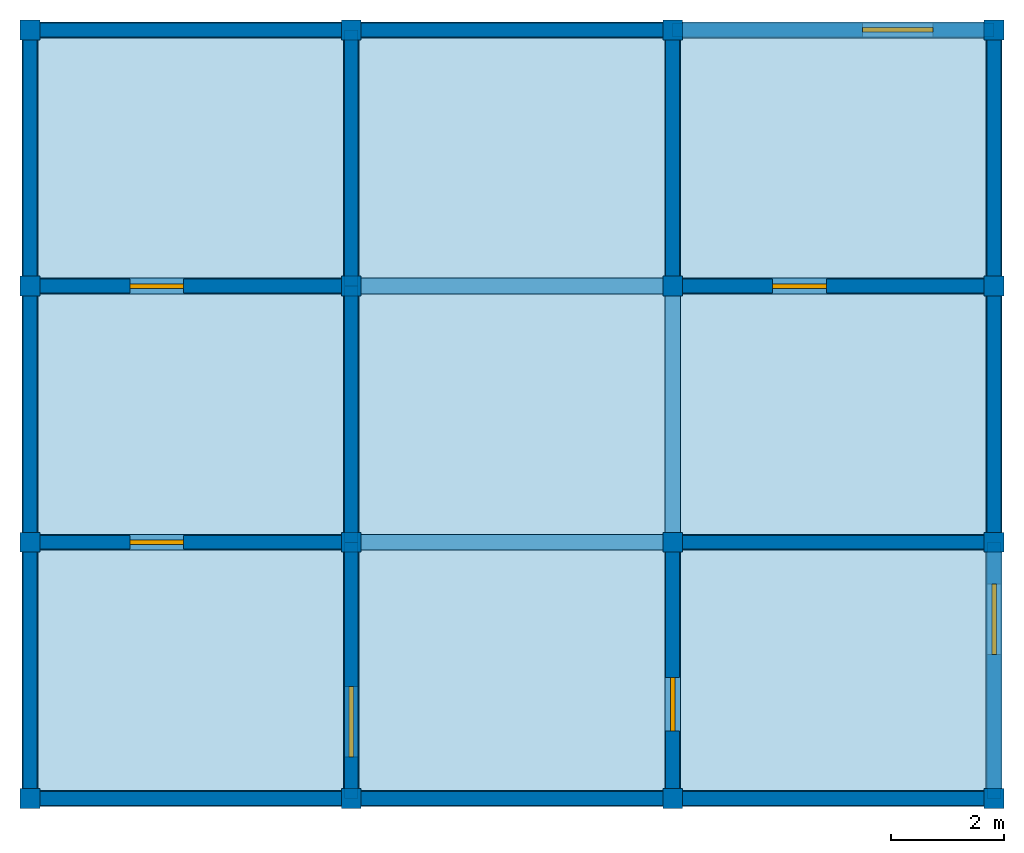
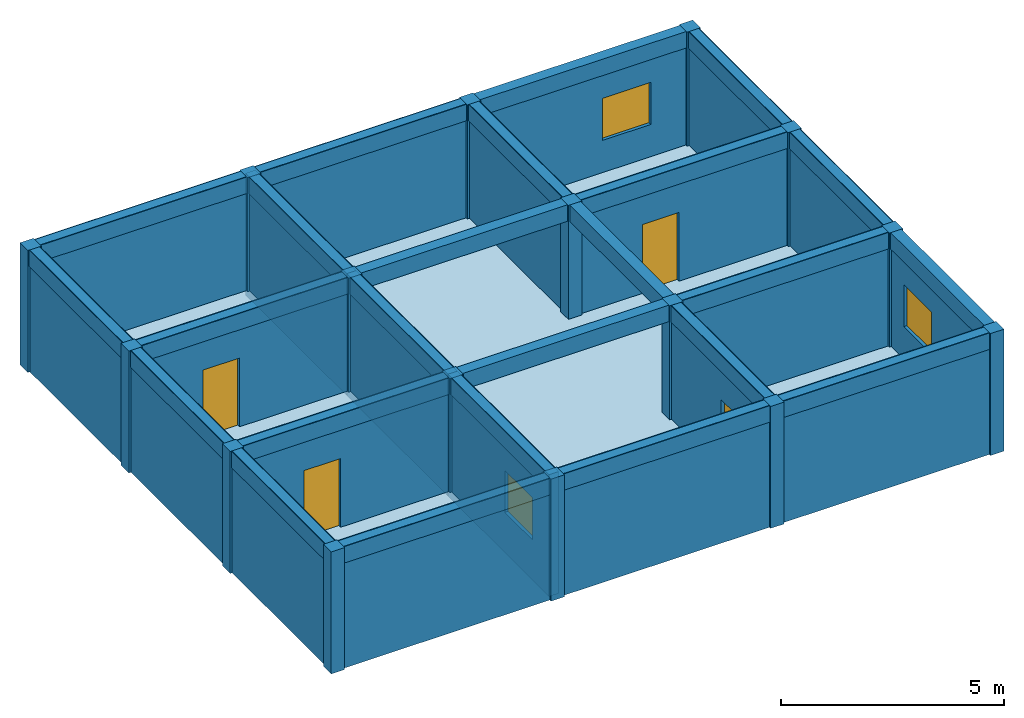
# One storey: 24 beams, 24 walls, 16 columns, 4 doors, 3 windows, 1 slab, 7 openings.
"""IFC4X3 building model written with IfcOpenShell, lengths in metres."""

from ifc_helpers import new_model, si_unit, frame, origin_with_axes, origin_2d, place, context, project, spatial, rectangle, extrude, material, element, fill, save


model = new_model("IFC4X3")

# Units and contexts
model_context = context("Model", 3, precision=1e-05, world=origin_with_axes())
ifc_project = project(units=[si_unit("LENGTHUNIT", "METRE"), si_unit("AREAUNIT", "SQUARE_METRE"), si_unit("VOLUMEUNIT", "CUBIC_METRE")], contexts=[model_context])

# Site, building, storey
site = spatial("IfcSite", under=ifc_project, Name="Valdivia Parcel", CompositionType="ELEMENT")
building = spatial("IfcBuilding", under=site, Name="Strata Block", CompositionType="ELEMENT")
storey = spatial("IfcBuildingStorey", under=building, Name="Level 12", CompositionType="ELEMENT", Elevation=36.69)

# Columns
ifc_material_1 = material(Name="Concrete")
column_1_placement = place(None, frame((-8.525, -6.795, 36.69), z_axis=(0.0, 0.0, 1.0), x_axis=(1.0, 0.0, 0.0)))
element("IfcColumn", 1, at=column_1_placement, inside=storey, material=ifc_material_1, Name="Column 12.1", ObjectType="Structural Column", PredefinedType="NOTDEFINED", context=model_context, shape_type="SweptSolid", body=[
    extrude(rectangle(XDim=0.35, YDim=0.35, at=origin_2d()), origin_with_axes(), (0.0, 0.0, 1.0), 3.335),
])
column_2_placement = place(None, frame((-8.525, -2.265, 36.69), z_axis=(0.0, 0.0, 1.0), x_axis=(1.0, 0.0, 0.0)))
element("IfcColumn", 2, at=column_2_placement, inside=storey, material=ifc_material_1, Name="Column 12.2", ObjectType="Corner Column", PredefinedType="PILASTER", context=model_context, shape_type="SweptSolid", body=[
    extrude(rectangle(XDim=0.35, YDim=0.35, at=origin_2d()), origin_with_axes(), (0.0, 0.0, 1.0), 3.335),
])
column_3_placement = place(None, frame((-8.525, 2.265, 36.69), z_axis=(0.0, 0.0, 1.0), x_axis=(1.0, 0.0, 0.0)))
element("IfcColumn", 3, at=column_3_placement, inside=storey, material=ifc_material_1, Name="Column 12.3", ObjectType="Corner Column", PredefinedType="USERDEFINED", context=model_context, shape_type="SweptSolid", body=[
    extrude(rectangle(XDim=0.35, YDim=0.35, at=origin_2d()), origin_with_axes(), (0.0, 0.0, 1.0), 3.335),
])
column_4_placement = place(None, frame((-8.525, 6.795, 36.69), z_axis=(0.0, 0.0, 1.0), x_axis=(1.0, 0.0, 0.0)))
element("IfcColumn", 4, at=column_4_placement, inside=storey, material=ifc_material_1, Name="Column 12.4", ObjectType="Corner Column", PredefinedType="PILASTER", context=model_context, shape_type="SweptSolid", body=[
    extrude(rectangle(XDim=0.35, YDim=0.35, at=origin_2d()), origin_with_axes(), (0.0, 0.0, 1.0), 3.335),
])
column_5_placement = place(None, frame((-2.842, -6.795, 36.69), z_axis=(0.0, 0.0, 1.0), x_axis=(1.0, 0.0, 0.0)))
element("IfcColumn", 5, at=column_5_placement, inside=storey, material=ifc_material_1, Name="Column 12.5", ObjectType="Structural Column", PredefinedType="NOTDEFINED", context=model_context, shape_type="SweptSolid", body=[
    extrude(rectangle(XDim=0.35, YDim=0.35, at=origin_2d()), origin_with_axes(), (0.0, 0.0, 1.0), 3.335),
])
column_6_placement = place(None, frame((-2.842, -2.265, 36.69), z_axis=(0.0, 0.0, 1.0), x_axis=(1.0, 0.0, 0.0)))
element("IfcColumn", 6, at=column_6_placement, inside=storey, material=ifc_material_1, Name="Column 12.6", ObjectType="Core Column", PredefinedType="USERDEFINED", context=model_context, shape_type="SweptSolid", body=[
    extrude(rectangle(XDim=0.35, YDim=0.35, at=origin_2d()), origin_with_axes(), (0.0, 0.0, 1.0), 3.335),
])
column_7_placement = place(None, frame((-2.842, 2.265, 36.69), z_axis=(0.0, 0.0, 1.0), x_axis=(1.0, 0.0, 0.0)))
element("IfcColumn", 7, at=column_7_placement, inside=storey, material=ifc_material_1, Name="Column 12.7", ObjectType="Core Column", PredefinedType="PILASTER", context=model_context, shape_type="SweptSolid", body=[
    extrude(rectangle(XDim=0.35, YDim=0.35, at=origin_2d()), origin_with_axes(), (0.0, 0.0, 1.0), 3.335),
])
column_8_placement = place(None, frame((-2.842, 6.795, 36.69), z_axis=(0.0, 0.0, 1.0), x_axis=(1.0, 0.0, 0.0)))
element("IfcColumn", 8, at=column_8_placement, inside=storey, material=ifc_material_1, Name="Column 12.8", ObjectType="Corner Column", PredefinedType="PILASTER", context=model_context, shape_type="SweptSolid", body=[
    extrude(rectangle(XDim=0.35, YDim=0.35, at=origin_2d()), origin_with_axes(), (0.0, 0.0, 1.0), 3.335),
])
column_9_placement = place(None, frame((2.841, -6.795, 36.69), z_axis=(0.0, 0.0, 1.0), x_axis=(1.0, 0.0, 0.0)))
element("IfcColumn", 9, at=column_9_placement, inside=storey, material=ifc_material_1, Name="Column 12.9", ObjectType="Structural Column", PredefinedType="USERDEFINED", context=model_context, shape_type="SweptSolid", body=[
    extrude(rectangle(XDim=0.35, YDim=0.35, at=origin_2d()), origin_with_axes(), (0.0, 0.0, 1.0), 3.335),
])
column_10_placement = place(None, frame((2.841, -2.265, 36.69), z_axis=(0.0, 0.0, 1.0), x_axis=(1.0, 0.0, 0.0)))
element("IfcColumn", 10, at=column_10_placement, inside=storey, material=ifc_material_1, Name="Column 12.10", ObjectType="Structural Column", PredefinedType="NOTDEFINED", context=model_context, shape_type="SweptSolid", body=[
    extrude(rectangle(XDim=0.35, YDim=0.35, at=origin_2d()), origin_with_axes(), (0.0, 0.0, 1.0), 3.335),
])
column_11_placement = place(None, frame((2.841, 2.265, 36.69), z_axis=(0.0, 0.0, 1.0), x_axis=(1.0, 0.0, 0.0)))
element("IfcColumn", 11, at=column_11_placement, inside=storey, material=ifc_material_1, Name="Column 12.11", ObjectType="Structural Column", PredefinedType="USERDEFINED", context=model_context, shape_type="SweptSolid", body=[
    extrude(rectangle(XDim=0.35, YDim=0.35, at=origin_2d()), origin_with_axes(), (0.0, 0.0, 1.0), 3.335),
])
for number, where, z_axis, x_axis, name in (
    (12, (2.841, 6.795, 36.69), (0.0, 0.0, 1.0), (1.0, 0.0, 0.0), "Column 12.12"),
    (13, (8.524, -6.795, 36.69), (0.0, 0.0, 1.0), (1.0, 0.0, 0.0), "Column 12.13"),
    (14, (8.524, -2.265, 36.69), (0.0, 0.0, 1.0), (1.0, 0.0, 0.0), "Column 12.14"),
):
    element("IfcColumn", number, at=place(None, frame(where, z_axis=z_axis, x_axis=x_axis)), inside=storey, material=ifc_material_1, Name=name, ObjectType="Structural Column", PredefinedType="COLUMN", context=model_context, shape_type="SweptSolid", body=[
        extrude(rectangle(XDim=0.35, YDim=0.35, at=origin_2d()), origin_with_axes(), (0.0, 0.0, 1.0), 3.335),
    ])
column_12_placement = place(None, frame((8.524, 2.265, 36.69), z_axis=(0.0, 0.0, 1.0), x_axis=(1.0, 0.0, 0.0)))
element("IfcColumn", 15, at=column_12_placement, inside=storey, material=ifc_material_1, Name="Column 12.15", ObjectType="Facade Column", PredefinedType="NOTDEFINED", context=model_context, shape_type="SweptSolid", body=[
    extrude(rectangle(XDim=0.35, YDim=0.35, at=origin_2d()), origin_with_axes(), (0.0, 0.0, 1.0), 3.335),
])
column_13_placement = place(None, frame((8.524, 6.795, 36.69), z_axis=(0.0, 0.0, 1.0), x_axis=(1.0, 0.0, 0.0)))
element("IfcColumn", 16, at=column_13_placement, inside=storey, material=ifc_material_1, Name="Column 12.16", ObjectType="Corner Column", PredefinedType="PILASTER", context=model_context, shape_type="SweptSolid", body=[
    extrude(rectangle(XDim=0.35, YDim=0.35, at=origin_2d()), origin_with_axes(), (0.0, 0.0, 1.0), 3.335),
])

# Beams
ifc_material_2 = material(Name="Timber")
beam_1_placement = place(None, frame((-5.684, -6.795, 39.575), z_axis=(0.0, 0.0, 1.0), x_axis=(1.0, 0.0, 0.0)))
element("IfcBeam", 17, at=beam_1_placement, inside=storey, material=ifc_material_2, Name="Beam 12.1", ObjectType="Primary Beam", PredefinedType="T_BEAM", context=model_context, shape_type="SweptSolid", body=[
    extrude(rectangle(XDim=5.683, YDim=0.28, at=origin_2d()), origin_with_axes(), (0.0, 0.0, 1.0), 0.45),
])
beam_2_placement = place(None, frame((0.0, -6.795, 39.575), z_axis=(0.0, 0.0, 1.0), x_axis=(1.0, 0.0, 0.0)))
element("IfcBeam", 18, at=beam_2_placement, inside=storey, material=ifc_material_2, Name="Beam 12.2", ObjectType="Secondary Beam", PredefinedType="T_BEAM", context=model_context, shape_type="SweptSolid", body=[
    extrude(rectangle(XDim=5.683, YDim=0.28, at=origin_2d()), origin_with_axes(), (0.0, 0.0, 1.0), 0.45),
])
beam_3_placement = place(None, frame((5.682, -6.795, 39.575), z_axis=(0.0, 0.0, 1.0), x_axis=(1.0, 0.0, 0.0)))
element("IfcBeam", 19, at=beam_3_placement, inside=storey, material=ifc_material_2, Name="Beam 12.3", ObjectType="Primary Beam", PredefinedType="SPANDREL", context=model_context, shape_type="SweptSolid", body=[
    extrude(rectangle(XDim=5.683, YDim=0.28, at=origin_2d()), origin_with_axes(), (0.0, 0.0, 1.0), 0.45),
])
beam_4_placement = place(None, frame((-5.684, -2.265, 39.575), z_axis=(0.0, 0.0, 1.0), x_axis=(1.0, 0.0, 0.0)))
element("IfcBeam", 20, at=beam_4_placement, inside=storey, material=ifc_material_2, Name="Beam 12.4", ObjectType="Secondary Beam", PredefinedType="HOLLOWCORE", context=model_context, shape_type="SweptSolid", body=[
    extrude(rectangle(XDim=5.683, YDim=0.28, at=origin_2d()), origin_with_axes(), (0.0, 0.0, 1.0), 0.45),
])
beam_5_placement = place(None, frame((0.0, -2.265, 39.575), z_axis=(0.0, 0.0, 1.0), x_axis=(1.0, 0.0, 0.0)))
element("IfcBeam", 21, at=beam_5_placement, inside=storey, material=ifc_material_2, Name="Beam 12.5", ObjectType="Ridge Beam", PredefinedType="LINTEL", context=model_context, shape_type="SweptSolid", body=[
    extrude(rectangle(XDim=5.683, YDim=0.28, at=origin_2d()), origin_with_axes(), (0.0, 0.0, 1.0), 0.45),
])
beam_6_placement = place(None, frame((5.682, -2.265, 39.575), z_axis=(0.0, 0.0, 1.0), x_axis=(1.0, 0.0, 0.0)))
element("IfcBeam", 22, at=beam_6_placement, inside=storey, material=ifc_material_2, Name="Beam 12.6", ObjectType="Ridge Beam", PredefinedType="T_BEAM", context=model_context, shape_type="SweptSolid", body=[
    extrude(rectangle(XDim=5.683, YDim=0.28, at=origin_2d()), origin_with_axes(), (0.0, 0.0, 1.0), 0.45),
])
beam_7_placement = place(None, frame((-5.684, 2.265, 39.575), z_axis=(0.0, 0.0, 1.0), x_axis=(1.0, 0.0, 0.0)))
element("IfcBeam", 23, at=beam_7_placement, inside=storey, material=ifc_material_2, Name="Beam 12.7", ObjectType="Secondary Beam", PredefinedType="LINTEL", context=model_context, shape_type="SweptSolid", body=[
    extrude(rectangle(XDim=5.683, YDim=0.28, at=origin_2d()), origin_with_axes(), (0.0, 0.0, 1.0), 0.45),
])
beam_8_placement = place(None, frame((0.0, 2.265, 39.575), z_axis=(0.0, 0.0, 1.0), x_axis=(1.0, 0.0, 0.0)))
element("IfcBeam", 24, at=beam_8_placement, inside=storey, material=ifc_material_2, Name="Beam 12.8", ObjectType="Primary Beam", PredefinedType="BEAM", context=model_context, shape_type="SweptSolid", body=[
    extrude(rectangle(XDim=5.683, YDim=0.28, at=origin_2d()), origin_with_axes(), (0.0, 0.0, 1.0), 0.45),
])
beam_9_placement = place(None, frame((5.682, 2.265, 39.575), z_axis=(0.0, 0.0, 1.0), x_axis=(1.0, 0.0, 0.0)))
element("IfcBeam", 25, at=beam_9_placement, inside=storey, material=ifc_material_2, Name="Beam 12.9", ObjectType="Primary Beam", PredefinedType="USERDEFINED", context=model_context, shape_type="SweptSolid", body=[
    extrude(rectangle(XDim=5.683, YDim=0.28, at=origin_2d()), origin_with_axes(), (0.0, 0.0, 1.0), 0.45),
])
beam_10_placement = place(None, frame((-5.684, 6.795, 39.575), z_axis=(0.0, 0.0, 1.0), x_axis=(1.0, 0.0, 0.0)))
element("IfcBeam", 26, at=beam_10_placement, inside=storey, material=ifc_material_2, Name="Beam 12.10", ObjectType="Transfer Beam", PredefinedType="HOLLOWCORE", context=model_context, shape_type="SweptSolid", body=[
    extrude(rectangle(XDim=5.683, YDim=0.28, at=origin_2d()), origin_with_axes(), (0.0, 0.0, 1.0), 0.45),
])
beam_11_placement = place(None, frame((0.0, 6.795, 39.575), z_axis=(0.0, 0.0, 1.0), x_axis=(1.0, 0.0, 0.0)))
element("IfcBeam", 27, at=beam_11_placement, inside=storey, material=ifc_material_2, Name="Beam 12.11", ObjectType="Transfer Beam", PredefinedType="LINTEL", context=model_context, shape_type="SweptSolid", body=[
    extrude(rectangle(XDim=5.683, YDim=0.28, at=origin_2d()), origin_with_axes(), (0.0, 0.0, 1.0), 0.45),
])
beam_12_placement = place(None, frame((5.682, 6.795, 39.575), z_axis=(0.0, 0.0, 1.0), x_axis=(1.0, 0.0, 0.0)))
element("IfcBeam", 28, at=beam_12_placement, inside=storey, material=ifc_material_2, Name="Beam 12.12", ObjectType="Secondary Beam", PredefinedType="JOIST", context=model_context, shape_type="SweptSolid", body=[
    extrude(rectangle(XDim=5.683, YDim=0.28, at=origin_2d()), origin_with_axes(), (0.0, 0.0, 1.0), 0.45),
])
beam_13_placement = place(None, frame((-8.525, -4.53, 39.575), z_axis=(0.0, 0.0, 1.0), x_axis=(0.0, 1.0, 0.0)))
element("IfcBeam", 29, at=beam_13_placement, inside=storey, material=ifc_material_2, Name="Beam 12.13", ObjectType="Transfer Beam", PredefinedType="T_BEAM", context=model_context, shape_type="SweptSolid", body=[
    extrude(rectangle(XDim=4.53, YDim=0.28, at=origin_2d()), origin_with_axes(), (0.0, 0.0, 1.0), 0.45),
])
beam_14_placement = place(None, frame((-8.525, 0.0, 39.575), z_axis=(0.0, 0.0, 1.0), x_axis=(0.0, 1.0, 0.0)))
element("IfcBeam", 30, at=beam_14_placement, inside=storey, material=ifc_material_2, Name="Beam 12.14", ObjectType="Ridge Beam", PredefinedType="T_BEAM", context=model_context, shape_type="SweptSolid", body=[
    extrude(rectangle(XDim=4.53, YDim=0.28, at=origin_2d()), origin_with_axes(), (0.0, 0.0, 1.0), 0.45),
])
beam_15_placement = place(None, frame((-8.525, 4.53, 39.575), z_axis=(0.0, 0.0, 1.0), x_axis=(0.0, 1.0, 0.0)))
element("IfcBeam", 31, at=beam_15_placement, inside=storey, material=ifc_material_2, Name="Beam 12.15", ObjectType="Ridge Beam", PredefinedType="JOIST", context=model_context, shape_type="SweptSolid", body=[
    extrude(rectangle(XDim=4.53, YDim=0.28, at=origin_2d()), origin_with_axes(), (0.0, 0.0, 1.0), 0.45),
])
beam_16_placement = place(None, frame((-2.842, -4.53, 39.575), z_axis=(0.0, 0.0, 1.0), x_axis=(0.0, 1.0, 0.0)))
element("IfcBeam", 32, at=beam_16_placement, inside=storey, material=ifc_material_2, Name="Beam 12.16", ObjectType="Transfer Beam", PredefinedType="T_BEAM", context=model_context, shape_type="SweptSolid", body=[
    extrude(rectangle(XDim=4.53, YDim=0.28, at=origin_2d()), origin_with_axes(), (0.0, 0.0, 1.0), 0.45),
])
beam_17_placement = place(None, frame((-2.842, 0.0, 39.575), z_axis=(0.0, 0.0, 1.0), x_axis=(0.0, 1.0, 0.0)))
element("IfcBeam", 33, at=beam_17_placement, inside=storey, material=ifc_material_2, Name="Beam 12.17", ObjectType="Transfer Beam", PredefinedType="NOTDEFINED", context=model_context, shape_type="SweptSolid", body=[
    extrude(rectangle(XDim=4.53, YDim=0.28, at=origin_2d()), origin_with_axes(), (0.0, 0.0, 1.0), 0.45),
])
beam_18_placement = place(None, frame((-2.842, 4.53, 39.575), z_axis=(0.0, 0.0, 1.0), x_axis=(0.0, 1.0, 0.0)))
element("IfcBeam", 34, at=beam_18_placement, inside=storey, material=ifc_material_2, Name="Beam 12.18", ObjectType="Primary Beam", PredefinedType="NOTDEFINED", context=model_context, shape_type="SweptSolid", body=[
    extrude(rectangle(XDim=4.53, YDim=0.28, at=origin_2d()), origin_with_axes(), (0.0, 0.0, 1.0), 0.45),
])
beam_19_placement = place(None, frame((2.841, -4.53, 39.575), z_axis=(0.0, 0.0, 1.0), x_axis=(0.0, 1.0, 0.0)))
element("IfcBeam", 35, at=beam_19_placement, inside=storey, material=ifc_material_2, Name="Beam 12.19", ObjectType="Rafter Beam", PredefinedType="HOLLOWCORE", context=model_context, shape_type="SweptSolid", body=[
    extrude(rectangle(XDim=4.53, YDim=0.28, at=origin_2d()), origin_with_axes(), (0.0, 0.0, 1.0), 0.45),
])
beam_20_placement = place(None, frame((2.841, 0.0, 39.575), z_axis=(0.0, 0.0, 1.0), x_axis=(0.0, 1.0, 0.0)))
element("IfcBeam", 36, at=beam_20_placement, inside=storey, material=ifc_material_2, Name="Beam 12.20", ObjectType="Rafter Beam", PredefinedType="NOTDEFINED", context=model_context, shape_type="SweptSolid", body=[
    extrude(rectangle(XDim=4.53, YDim=0.28, at=origin_2d()), origin_with_axes(), (0.0, 0.0, 1.0), 0.45),
])
beam_21_placement = place(None, frame((2.841, 4.53, 39.575), z_axis=(0.0, 0.0, 1.0), x_axis=(0.0, 1.0, 0.0)))
element("IfcBeam", 37, at=beam_21_placement, inside=storey, material=ifc_material_2, Name="Beam 12.21", ObjectType="Primary Beam", PredefinedType="T_BEAM", context=model_context, shape_type="SweptSolid", body=[
    extrude(rectangle(XDim=4.53, YDim=0.28, at=origin_2d()), origin_with_axes(), (0.0, 0.0, 1.0), 0.45),
])
beam_22_placement = place(None, frame((8.524, -4.53, 39.575), z_axis=(0.0, 0.0, 1.0), x_axis=(0.0, 1.0, 0.0)))
element("IfcBeam", 38, at=beam_22_placement, inside=storey, material=ifc_material_2, Name="Beam 12.22", ObjectType="Secondary Beam", PredefinedType="HOLLOWCORE", context=model_context, shape_type="SweptSolid", body=[
    extrude(rectangle(XDim=4.53, YDim=0.28, at=origin_2d()), origin_with_axes(), (0.0, 0.0, 1.0), 0.45),
])
beam_23_placement = place(None, frame((8.524, 0.0, 39.575), z_axis=(0.0, 0.0, 1.0), x_axis=(0.0, 1.0, 0.0)))
element("IfcBeam", 39, at=beam_23_placement, inside=storey, material=ifc_material_2, Name="Beam 12.23", ObjectType="Transfer Beam", PredefinedType="HOLLOWCORE", context=model_context, shape_type="SweptSolid", body=[
    extrude(rectangle(XDim=4.53, YDim=0.28, at=origin_2d()), origin_with_axes(), (0.0, 0.0, 1.0), 0.45),
])
beam_24_placement = place(None, frame((8.524, 4.53, 39.575), z_axis=(0.0, 0.0, 1.0), x_axis=(0.0, 1.0, 0.0)))
element("IfcBeam", 40, at=beam_24_placement, inside=storey, material=ifc_material_2, Name="Beam 12.24", ObjectType="Primary Beam", PredefinedType="LINTEL", context=model_context, shape_type="SweptSolid", body=[
    extrude(rectangle(XDim=4.53, YDim=0.28, at=origin_2d()), origin_with_axes(), (0.0, 0.0, 1.0), 0.45),
])

# Slab
slab_placement = place(None, frame((0.0, 0.0, 36.69), z_axis=(0.0, 0.0, 1.0), x_axis=(1.0, 0.0, 0.0)))
element("IfcSlab", 41, at=slab_placement, inside=storey, material=ifc_material_2, Name="Slab 12", ObjectType="Roof Slab", PredefinedType="ROOF", context=model_context, shape_type="SweptSolid", body=[
    extrude(rectangle(XDim=17.05, YDim=13.59, at=origin_2d()), origin_with_axes(), (0.0, 0.0, 1.0), 0.22),
])

# Wall, opening, door
wall_1_placement = place(None, frame((-5.684, -2.265, 36.69), z_axis=(0.0, 0.0, 1.0), x_axis=(1.0, 0.0, 0.0)))
wall_1 = element("IfcWall", 42, at=wall_1_placement, inside=storey, material=ifc_material_1, Name="Wall 12.1", ObjectType="Corridor Partition", PredefinedType="SOLIDWALL", context=model_context, shape_type="SweptSolid", body=[
    extrude(rectangle(XDim=5.683, YDim=0.244863, at=origin_2d()), origin_with_axes(), (0.0, 0.0, 1.0), 3.335),
])
opening_1_placement = place(None, frame((-6.284, -2.265, 36.69), z_axis=(0.0, 0.0, 1.0), x_axis=(1.0, 0.0, 0.0)))
opening_1 = element("IfcOpeningElement", 43, at=opening_1_placement, cuts=wall_1, Name="Door opening 12.1", ObjectType="Door Opening", PredefinedType="OPENING", context=model_context, shape_type="SweptSolid", body=[
    extrude(rectangle(XDim=0.95, YDim=0.324863, at=origin_2d()), origin_with_axes(), (0.0, 0.0, 1.0), 2.1),
])
door_1_placement = place(None, frame((-6.284, -2.265, 36.69), z_axis=(0.0, 0.0, 1.0), x_axis=(1.0, 0.0, 0.0)))
door_1 = element("IfcDoor", 44, at=door_1_placement, inside=storey, Name="Door 12.1", ObjectType="Entry Door", OverallHeight=2.1, OverallWidth=0.95, context=model_context, shape_type="SweptSolid", body=[
    extrude(rectangle(XDim=0.95, YDim=0.08, at=origin_2d()), origin_with_axes(), (0.0, 0.0, 1.0), 2.1),
])
fill(opening_1, door_1)

# Wall, opening, window
wall_2_placement = place(None, frame((-2.8425, -4.53, 36.69), z_axis=(0.0, 0.0, 1.0), x_axis=(0.0, 1.0, 0.0)))
wall_2 = element("IfcWall", 45, at=wall_2_placement, inside=storey, material=ifc_material_1, Name="Wall 12.2", ObjectType="Exterior Wall", PredefinedType="PARAPET", context=model_context, shape_type="SweptSolid", body=[
    extrude(rectangle(XDim=4.53, YDim=0.244863, at=origin_2d()), origin_with_axes(), (0.0, 0.0, 1.0), 3.335),
])
opening_2_placement = place(None, frame((-2.843, -5.436, 37.79), z_axis=(0.0, 0.0, 1.0), x_axis=(0.0, 1.0, 0.0)))
opening_2 = element("IfcOpeningElement", 46, at=opening_2_placement, cuts=wall_2, Name="Window opening 12.2", ObjectType="Window Opening", PredefinedType="OPENING", context=model_context, shape_type="SweptSolid", body=[
    extrude(rectangle(XDim=1.25, YDim=0.324863, at=origin_2d()), origin_with_axes(), (0.0, 0.0, 1.0), 1.15),
])
window_1_placement = place(None, frame((-2.843, -5.436, 37.79), z_axis=(0.0, 0.0, 1.0), x_axis=(0.0, 1.0, 0.0)))
window_1 = element("IfcWindow", 47, at=window_1_placement, inside=storey, Name="Window 12.2", ObjectType="Sliding Window", OverallHeight=1.15, OverallWidth=1.25, context=model_context, shape_type="SweptSolid", body=[
    extrude(rectangle(XDim=1.25, YDim=0.08, at=origin_2d()), origin_with_axes(), (0.0, 0.0, 1.0), 1.15),
])
fill(opening_2, window_1)

# Walls
wall_3_placement = place(None, frame((-5.684, -6.795, 36.69), z_axis=(0.0, 0.0, 1.0), x_axis=(1.0, 0.0, 0.0)))
element("IfcWall", 48, at=wall_3_placement, inside=storey, material=ifc_material_1, Name="Wall 12.3", ObjectType="Exterior Wall", PredefinedType="ELEMENTEDWALL", context=model_context, shape_type="SweptSolid", body=[
    extrude(rectangle(XDim=5.683, YDim=0.244863, at=origin_2d()), origin_with_axes(), (0.0, 0.0, 1.0), 3.335),
])
ifc_material_3 = material(Name="CLT")
wall_4_placement = place(None, frame((-8.5255, -4.53, 36.69), z_axis=(0.0, 0.0, 1.0), x_axis=(0.0, 1.0, 0.0)))
element("IfcWall", 49, at=wall_4_placement, inside=storey, material=ifc_material_3, Name="Wall 12.4", ObjectType="Exterior Wall", PredefinedType="MOVABLE", context=model_context, shape_type="SweptSolid", body=[
    extrude(rectangle(XDim=4.53, YDim=0.244863, at=origin_2d()), origin_with_axes(), (0.0, 0.0, 1.0), 3.335),
])

# Wall, opening, door
ifc_material_4 = material(Name="Brick")
wall_5_placement = place(None, frame((2.8405, -4.53, 36.69), z_axis=(0.0, 0.0, 1.0), x_axis=(0.0, 1.0, 0.0)))
wall_5 = element("IfcWall", 50, at=wall_5_placement, inside=storey, material=ifc_material_4, Name="Wall 12.5", ObjectType="Corridor Partition", PredefinedType="SHEAR", context=model_context, shape_type="SweptSolid", body=[
    extrude(rectangle(XDim=4.53, YDim=0.244863, at=origin_2d()), origin_with_axes(), (0.0, 0.0, 1.0), 3.335),
])
opening_3_placement = place(None, frame((2.841, -5.13, 36.69), z_axis=(0.0, 0.0, 1.0), x_axis=(0.0, 1.0, 0.0)))
opening_3 = element("IfcOpeningElement", 51, at=opening_3_placement, cuts=wall_5, Name="Door opening 12.3", ObjectType="Door Opening", PredefinedType="OPENING", context=model_context, shape_type="SweptSolid", body=[
    extrude(rectangle(XDim=0.95, YDim=0.324863, at=origin_2d()), origin_with_axes(), (0.0, 0.0, 1.0), 2.1),
])
door_2_placement = place(None, frame((2.841, -5.13, 36.69), z_axis=(0.0, 0.0, 1.0), x_axis=(0.0, 1.0, 0.0)))
door_2 = element("IfcDoor", 52, at=door_2_placement, inside=storey, Name="Door 12.3", ObjectType="Entry Door", OverallHeight=2.1, OverallWidth=0.95, context=model_context, shape_type="SweptSolid", body=[
    extrude(rectangle(XDim=0.95, YDim=0.08, at=origin_2d()), origin_with_axes(), (0.0, 0.0, 1.0), 2.1),
])
fill(opening_3, door_2)

# Walls
ifc_material_5 = material(Name="Gypsum")
wall_6_placement = place(None, frame((-0.001, -6.795, 36.69), z_axis=(0.0, 0.0, 1.0), x_axis=(1.0, 0.0, 0.0)))
element("IfcWall", 53, at=wall_6_placement, inside=storey, material=ifc_material_5, Name="Wall 12.6", ObjectType="Exterior Wall", PredefinedType="ELEMENTEDWALL", context=model_context, shape_type="SweptSolid", body=[
    extrude(rectangle(XDim=5.683, YDim=0.244863, at=origin_2d()), origin_with_axes(), (0.0, 0.0, 1.0), 3.335),
])
wall_7_placement = place(None, frame((-2.8425, -4.53, 36.69), z_axis=(0.0, 0.0, 1.0), x_axis=(0.0, 1.0, 0.0)))
element("IfcWall", 54, at=wall_7_placement, inside=storey, material=ifc_material_1, Name="Wall 12.7", ObjectType="Exterior Wall", PredefinedType="USERDEFINED", context=model_context, shape_type="SweptSolid", body=[
    extrude(rectangle(XDim=4.53, YDim=0.244863, at=origin_2d()), origin_with_axes(), (0.0, 0.0, 1.0), 3.335),
])
wall_8_placement = place(None, frame((5.682, -2.265, 36.69), z_axis=(0.0, 0.0, 1.0), x_axis=(1.0, 0.0, 0.0)))
element("IfcWall", 55, at=wall_8_placement, inside=storey, material=ifc_material_4, Name="Wall 12.8", ObjectType="Corridor Partition", PredefinedType="SHEAR", context=model_context, shape_type="SweptSolid", body=[
    extrude(rectangle(XDim=5.683, YDim=0.244863, at=origin_2d()), origin_with_axes(), (0.0, 0.0, 1.0), 3.335),
])

# Wall, opening, window
wall_9_placement = place(None, frame((8.5235, -4.53, 36.69), z_axis=(0.0, 0.0, 1.0), x_axis=(0.0, 1.0, 0.0)))
wall_9 = element("IfcWall", 56, at=wall_9_placement, inside=storey, material=ifc_material_1, Name="Wall 12.9", ObjectType="Exterior Wall", PredefinedType="NOTDEFINED", context=model_context, shape_type="SweptSolid", body=[
    extrude(rectangle(XDim=4.53, YDim=0.244863, at=origin_2d()), origin_with_axes(), (0.0, 0.0, 1.0), 3.335),
])
opening_4_placement = place(None, frame((8.524, -3.624, 37.79), z_axis=(0.0, 0.0, 1.0), x_axis=(0.0, 1.0, 0.0)))
opening_4 = element("IfcOpeningElement", 57, at=opening_4_placement, cuts=wall_9, Name="Window opening 12.4", ObjectType="Window Opening", PredefinedType="OPENING", context=model_context, shape_type="SweptSolid", body=[
    extrude(rectangle(XDim=1.25, YDim=0.324863, at=origin_2d()), origin_with_axes(), (0.0, 0.0, 1.0), 1.15),
])
window_2_placement = place(None, frame((8.524, -3.624, 37.79), z_axis=(0.0, 0.0, 1.0), x_axis=(0.0, 1.0, 0.0)))
window_2 = element("IfcWindow", 58, at=window_2_placement, inside=storey, Name="Window 12.4", ObjectType="Fixed Window", OverallHeight=1.15, OverallWidth=1.25, context=model_context, shape_type="SweptSolid", body=[
    extrude(rectangle(XDim=1.25, YDim=0.08, at=origin_2d()), origin_with_axes(), (0.0, 0.0, 1.0), 1.15),
])
fill(opening_4, window_2)

# Wall
wall_10_placement = place(None, frame((5.682, -6.795, 36.69), z_axis=(0.0, 0.0, 1.0), x_axis=(1.0, 0.0, 0.0)))
element("IfcWall", 59, at=wall_10_placement, inside=storey, material=ifc_material_1, Name="Wall 12.10", ObjectType="Exterior Wall", PredefinedType="MOVABLE", context=model_context, shape_type="SweptSolid", body=[
    extrude(rectangle(XDim=5.683, YDim=0.244863, at=origin_2d()), origin_with_axes(), (0.0, 0.0, 1.0), 3.335),
])

# Wall, opening, door
wall_11_placement = place(None, frame((-5.684, 2.265, 36.69), z_axis=(0.0, 0.0, 1.0), x_axis=(1.0, 0.0, 0.0)))
wall_11 = element("IfcWall", 60, at=wall_11_placement, inside=storey, material=ifc_material_4, Name="Wall 12.11", ObjectType="Corridor Partition", PredefinedType="POLYGONAL", context=model_context, shape_type="SweptSolid", body=[
    extrude(rectangle(XDim=5.683, YDim=0.244863, at=origin_2d()), origin_with_axes(), (0.0, 0.0, 1.0), 3.335),
])
opening_5_placement = place(None, frame((-6.284, 2.265, 36.69), z_axis=(0.0, 0.0, 1.0), x_axis=(1.0, 0.0, 0.0)))
opening_5 = element("IfcOpeningElement", 61, at=opening_5_placement, cuts=wall_11, Name="Door opening 12.5", ObjectType="Door Opening", PredefinedType="OPENING", context=model_context, shape_type="SweptSolid", body=[
    extrude(rectangle(XDim=0.95, YDim=0.324863, at=origin_2d()), origin_with_axes(), (0.0, 0.0, 1.0), 2.1),
])
door_3_placement = place(None, frame((-6.284, 2.265, 36.69), z_axis=(0.0, 0.0, 1.0), x_axis=(1.0, 0.0, 0.0)))
door_3 = element("IfcDoor", 62, at=door_3_placement, inside=storey, Name="Door 12.5", ObjectType="Fire Door", OverallHeight=2.1, OverallWidth=0.95, context=model_context, shape_type="SweptSolid", body=[
    extrude(rectangle(XDim=0.95, YDim=0.08, at=origin_2d()), origin_with_axes(), (0.0, 0.0, 1.0), 2.1),
])
fill(opening_5, door_3)

# Walls
wall_12_placement = place(None, frame((-2.8425, 0.0, 36.69), z_axis=(0.0, 0.0, 1.0), x_axis=(0.0, 1.0, 0.0)))
element("IfcWall", 63, at=wall_12_placement, inside=storey, material=ifc_material_5, Name="Wall 12.12", ObjectType="Exterior Wall", PredefinedType="ELEMENTEDWALL", context=model_context, shape_type="SweptSolid", body=[
    extrude(rectangle(XDim=4.53, YDim=0.244863, at=origin_2d()), origin_with_axes(), (0.0, 0.0, 1.0), 3.335),
])
wall_13_placement = place(None, frame((-8.5255, 0.0, 36.69), z_axis=(0.0, 0.0, 1.0), x_axis=(0.0, 1.0, 0.0)))
element("IfcWall", 64, at=wall_13_placement, inside=storey, material=ifc_material_1, Name="Wall 12.13", ObjectType="Exterior Wall", PredefinedType="USERDEFINED", context=model_context, shape_type="SweptSolid", body=[
    extrude(rectangle(XDim=4.53, YDim=0.244863, at=origin_2d()), origin_with_axes(), (0.0, 0.0, 1.0), 3.335),
])
wall_14_placement = place(None, frame((-2.8425, 0.0, 36.69), z_axis=(0.0, 0.0, 1.0), x_axis=(0.0, 1.0, 0.0)))
element("IfcWall", 65, at=wall_14_placement, inside=storey, material=ifc_material_1, Name="Wall 12.14", ObjectType="Exterior Wall", PredefinedType="PARTITIONING", context=model_context, shape_type="SweptSolid", body=[
    extrude(rectangle(XDim=4.53, YDim=0.244863, at=origin_2d()), origin_with_axes(), (0.0, 0.0, 1.0), 3.335),
])

# Wall, opening, door
wall_15_placement = place(None, frame((5.682, 2.265, 36.69), z_axis=(0.0, 0.0, 1.0), x_axis=(1.0, 0.0, 0.0)))
wall_15 = element("IfcWall", 66, at=wall_15_placement, inside=storey, material=ifc_material_4, Name="Wall 12.15", ObjectType="Corridor Partition", PredefinedType="USERDEFINED", context=model_context, shape_type="SweptSolid", body=[
    extrude(rectangle(XDim=5.683, YDim=0.244863, at=origin_2d()), origin_with_axes(), (0.0, 0.0, 1.0), 3.335),
])
opening_6_placement = place(None, frame((5.082, 2.265, 36.69), z_axis=(0.0, 0.0, 1.0), x_axis=(1.0, 0.0, 0.0)))
opening_6 = element("IfcOpeningElement", 67, at=opening_6_placement, cuts=wall_15, Name="Door opening 12.6", ObjectType="Door Opening", PredefinedType="OPENING", context=model_context, shape_type="SweptSolid", body=[
    extrude(rectangle(XDim=0.95, YDim=0.324863, at=origin_2d()), origin_with_axes(), (0.0, 0.0, 1.0), 2.1),
])
door_4_placement = place(None, frame((5.082, 2.265, 36.69), z_axis=(0.0, 0.0, 1.0), x_axis=(1.0, 0.0, 0.0)))
door_4 = element("IfcDoor", 68, at=door_4_placement, inside=storey, Name="Door 12.6", ObjectType="Entry Door", OverallHeight=2.1, OverallWidth=0.95, context=model_context, shape_type="SweptSolid", body=[
    extrude(rectangle(XDim=0.95, YDim=0.08, at=origin_2d()), origin_with_axes(), (0.0, 0.0, 1.0), 2.1),
])
fill(opening_6, door_4)

# Walls
wall_16_placement = place(None, frame((8.5235, 0.0, 36.69), z_axis=(0.0, 0.0, 1.0), x_axis=(0.0, 1.0, 0.0)))
element("IfcWall", 69, at=wall_16_placement, inside=storey, material=ifc_material_5, Name="Wall 12.16", ObjectType="Exterior Wall", PredefinedType="NOTDEFINED", context=model_context, shape_type="SweptSolid", body=[
    extrude(rectangle(XDim=4.53, YDim=0.244863, at=origin_2d()), origin_with_axes(), (0.0, 0.0, 1.0), 3.335),
])
wall_17_placement = place(None, frame((-5.684, 6.795, 36.69), z_axis=(0.0, 0.0, 1.0), x_axis=(1.0, 0.0, 0.0)))
element("IfcWall", 70, at=wall_17_placement, inside=storey, material=ifc_material_3, Name="Wall 12.17", ObjectType="Exterior Wall", PredefinedType="PARTITIONING", context=model_context, shape_type="SweptSolid", body=[
    extrude(rectangle(XDim=5.683, YDim=0.244863, at=origin_2d()), origin_with_axes(), (0.0, 0.0, 1.0), 3.335),
])
wall_18_placement = place(None, frame((-2.8425, 4.53, 36.69), z_axis=(0.0, 0.0, 1.0), x_axis=(0.0, 1.0, 0.0)))
element("IfcWall", 71, at=wall_18_placement, inside=storey, material=ifc_material_5, Name="Wall 12.18", ObjectType="Exterior Wall", PredefinedType="NOTDEFINED", context=model_context, shape_type="SweptSolid", body=[
    extrude(rectangle(XDim=4.53, YDim=0.244863, at=origin_2d()), origin_with_axes(), (0.0, 0.0, 1.0), 3.335),
])
wall_19_placement = place(None, frame((-8.5255, 4.53, 36.69), z_axis=(0.0, 0.0, 1.0), x_axis=(0.0, 1.0, 0.0)))
element("IfcWall", 72, at=wall_19_placement, inside=storey, material=ifc_material_3, Name="Wall 12.19", ObjectType="Exterior Wall", PredefinedType="PARAPET", context=model_context, shape_type="SweptSolid", body=[
    extrude(rectangle(XDim=4.53, YDim=0.244863, at=origin_2d()), origin_with_axes(), (0.0, 0.0, 1.0), 3.335),
])
wall_20_placement = place(None, frame((-0.001, 6.795, 36.69), z_axis=(0.0, 0.0, 1.0), x_axis=(1.0, 0.0, 0.0)))
element("IfcWall", 73, at=wall_20_placement, inside=storey, material=ifc_material_5, Name="Wall 12.20", ObjectType="Exterior Wall", PredefinedType="PARAPET", context=model_context, shape_type="SweptSolid", body=[
    extrude(rectangle(XDim=5.683, YDim=0.244863, at=origin_2d()), origin_with_axes(), (0.0, 0.0, 1.0), 3.335),
])
wall_21_placement = place(None, frame((2.8405, 4.53, 36.69), z_axis=(0.0, 0.0, 1.0), x_axis=(0.0, 1.0, 0.0)))
element("IfcWall", 74, at=wall_21_placement, inside=storey, material=ifc_material_5, Name="Wall 12.21", ObjectType="Corridor Partition", PredefinedType="MOVABLE", context=model_context, shape_type="SweptSolid", body=[
    extrude(rectangle(XDim=4.53, YDim=0.244863, at=origin_2d()), origin_with_axes(), (0.0, 0.0, 1.0), 3.335),
])
wall_22_placement = place(None, frame((-2.8425, 4.53, 36.69), z_axis=(0.0, 0.0, 1.0), x_axis=(0.0, 1.0, 0.0)))
element("IfcWall", 75, at=wall_22_placement, inside=storey, material=ifc_material_3, Name="Wall 12.22", ObjectType="Exterior Wall", PredefinedType="POLYGONAL", context=model_context, shape_type="SweptSolid", body=[
    extrude(rectangle(XDim=4.53, YDim=0.244863, at=origin_2d()), origin_with_axes(), (0.0, 0.0, 1.0), 3.335),
])

# Wall, opening, window
wall_23_placement = place(None, frame((5.682, 6.795, 36.69), z_axis=(0.0, 0.0, 1.0), x_axis=(1.0, 0.0, 0.0)))
wall_23 = element("IfcWall", 76, at=wall_23_placement, inside=storey, material=ifc_material_5, Name="Wall 12.23", ObjectType="Exterior Wall", PredefinedType="MOVABLE", context=model_context, shape_type="SweptSolid", body=[
    extrude(rectangle(XDim=5.683, YDim=0.244863, at=origin_2d()), origin_with_axes(), (0.0, 0.0, 1.0), 3.335),
])
opening_7_placement = place(None, frame((6.819, 6.795, 37.79), z_axis=(0.0, 0.0, 1.0), x_axis=(1.0, 0.0, 0.0)))
opening_7 = element("IfcOpeningElement", 77, at=opening_7_placement, cuts=wall_23, Name="Window opening 12.7", ObjectType="Window Opening", PredefinedType="OPENING", context=model_context, shape_type="SweptSolid", body=[
    extrude(rectangle(XDim=1.25, YDim=0.324863, at=origin_2d()), origin_with_axes(), (0.0, 0.0, 1.0), 1.15),
])
window_3_placement = place(None, frame((6.819, 6.795, 37.79), z_axis=(0.0, 0.0, 1.0), x_axis=(1.0, 0.0, 0.0)))
window_3 = element("IfcWindow", 78, at=window_3_placement, inside=storey, Name="Window 12.7", ObjectType="Fixed Window", OverallHeight=1.15, OverallWidth=1.25, context=model_context, shape_type="SweptSolid", body=[
    extrude(rectangle(XDim=1.25, YDim=0.08, at=origin_2d()), origin_with_axes(), (0.0, 0.0, 1.0), 1.15),
])
fill(opening_7, window_3)

# Wall
wall_24_placement = place(None, frame((8.5235, 4.53, 36.69), z_axis=(0.0, 0.0, 1.0), x_axis=(0.0, 1.0, 0.0)))
element("IfcWall", 79, at=wall_24_placement, inside=storey, material=ifc_material_4, Name="Wall 12.24", ObjectType="Exterior Wall", PredefinedType="ELEMENTEDWALL", context=model_context, shape_type="SweptSolid", body=[
    extrude(rectangle(XDim=4.53, YDim=0.244863, at=origin_2d()), origin_with_axes(), (0.0, 0.0, 1.0), 3.335),
])

save(model, "model.ifc")
